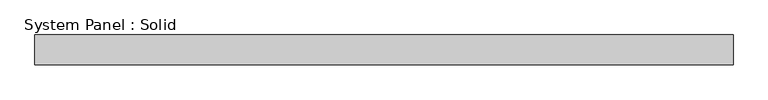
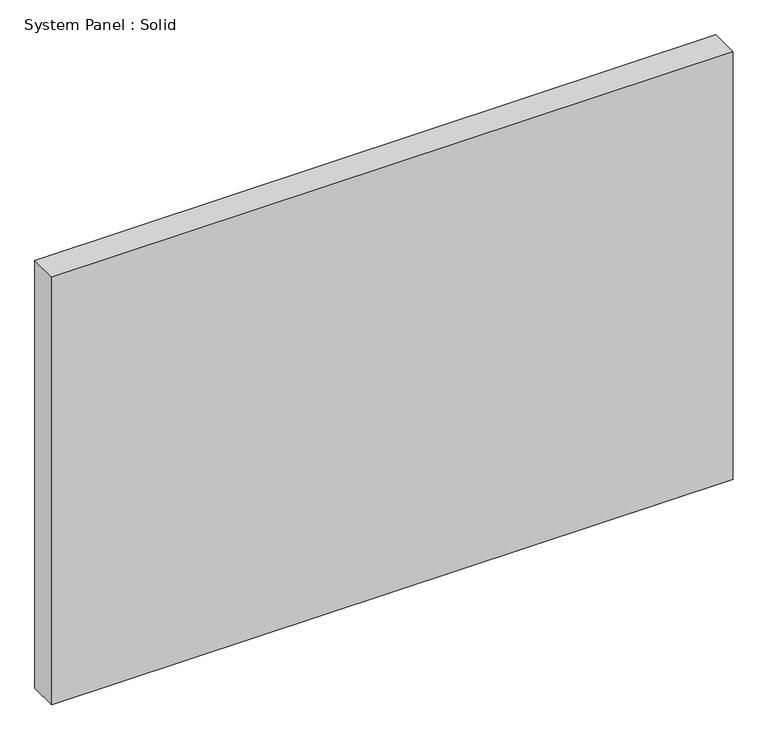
"""IFC4 building model written with IfcOpenShell, lengths in millimetres: plate geometry, System Panel : Solid."""

from ifc_helpers import new_model, si_unit, origin, origin_with_axes, place, context, project, spatial, polyline, outline, extrude, source, transform, mapped, element, save


def system_panel_solid_83e87f64(model_context):
    return source(origin(), model_context, "Body", "SweptSolid", [
        extrude(outline(polyline([(696.2366102, -49.5), (-696.2366102, -49.5), (-696.2366102, 10.5), (696.2366102, 10.5), (696.2366102, -49.5)])), origin_with_axes(), (0.0, 0.0, 1.0), 925.0),
    ])


if __name__ == "__main__":
    model = new_model("IFC4")
    model_context = context("Model", 3, world=origin())
    ifc_project = project(units=[si_unit("LENGTHUNIT", "METRE", prefix="MILLI")], contexts=[model_context])
    site = spatial("IfcSite", under=ifc_project)
    building = spatial("IfcBuilding", under=site)
    placement = place(None, origin())
    system_panel_solid_shape = system_panel_solid_83e87f64(model_context)
    element("IfcPlate", 1, ObjectType="System Panel : Solid", at=placement, inside=building, context=model_context, shape_type="MappedRepresentation", body=[
        mapped(system_panel_solid_shape, transform((0.0, 0.0, 0.0), x_axis=(1.0, 0.0, 0.0), y_axis=(0.0, 1.0, 0.0), z_axis=(0.0, 0.0, 1.0))),
    ])
    save(model, "model.ifc")
